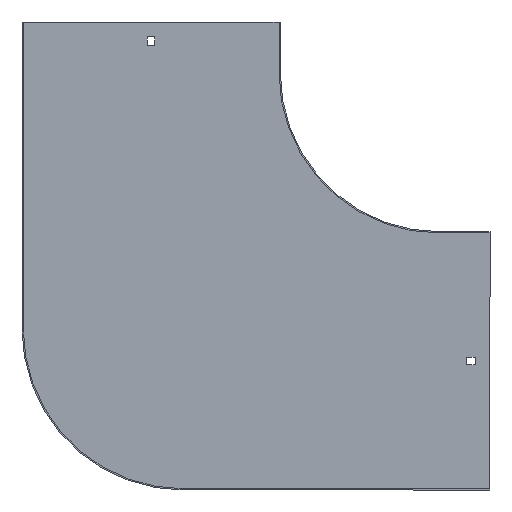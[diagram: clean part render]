
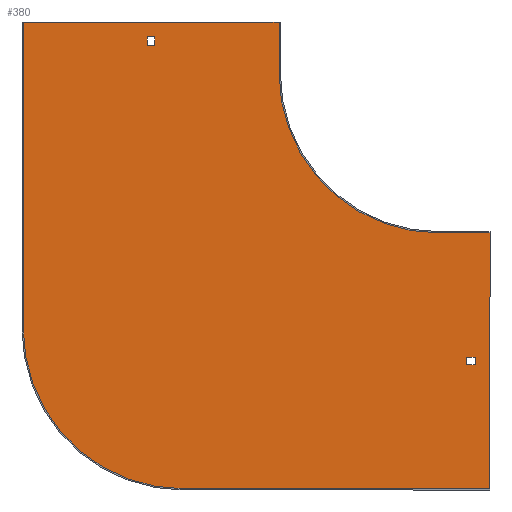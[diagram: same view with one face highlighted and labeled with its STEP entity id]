
A CAD part, front view. The second image highlights one B-rep face of the part: STEP entity #380.
In plain terms, the highlighted planar face has unit normal (0, -1, 0).
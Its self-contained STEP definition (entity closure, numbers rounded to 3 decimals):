
#1 = ORIENTED_EDGE ( 'NONE', *, *, #210, .F. ) ;
#2 = VECTOR ( 'NONE', #6, 1000. ) ;
#6 = DIRECTION ( 'NONE',  ( 0., 0., 1. ) ) ;
#17 = DIRECTION ( 'NONE',  ( 0., 0., -1. ) ) ;
#20 = CARTESIAN_POINT ( 'NONE',  ( 40., -1., -125. ) ) ;
#21 = CARTESIAN_POINT ( 'NONE',  ( 28.5, -1., -228. ) ) ;
#23 = LINE ( 'NONE', #491, #465 ) ;
#28 = LINE ( 'NONE', #237, #812 ) ;
#29 = VERTEX_POINT ( 'NONE', #565 ) ;
#33 = VERTEX_POINT ( 'NONE', #168 ) ;
#51 = ORIENTED_EDGE ( 'NONE', *, *, #435, .T. ) ;
#66 = CARTESIAN_POINT ( 'NONE',  ( -222., -1., 21.5 ) ) ;
#73 = ORIENTED_EDGE ( 'NONE', *, *, #659, .F. ) ;
#76 = CARTESIAN_POINT ( 'NONE',  ( 21.5, -1., -222. ) ) ;
#85 = EDGE_CURVE ( 'NONE', #679, #311, #780, .T. ) ;
#96 = VECTOR ( 'NONE', #17, 1000. ) ;
#97 = VECTOR ( 'NONE', #556, 1000. ) ;
#102 = EDGE_LOOP ( 'NONE', ( #194, #848, #434, #73, #392, #1, #570, #639 ) ) ;
#110 = VECTOR ( 'NONE', #827, 1000. ) ;
#113 = LINE ( 'NONE', #843, #768 ) ;
#130 = LINE ( 'NONE', #480, #825 ) ;
#132 = CARTESIAN_POINT ( 'NONE',  ( 28.5, -1., -222. ) ) ;
#135 = DIRECTION ( 'NONE',  ( -1., 0., 0. ) ) ;
#138 = EDGE_LOOP ( 'NONE', ( #470, #208, #51, #580 ) ) ;
#143 = DIRECTION ( 'NONE',  ( -1., 0., 0. ) ) ;
#153 = EDGE_LOOP ( 'NONE', ( #510, #524, #672, #616 ) ) ;
#155 = FACE_OUTER_BOUND ( 'NONE', #102, .T. ) ;
#158 = CARTESIAN_POINT ( 'NONE',  ( -228., -1., 21.5 ) ) ;
#166 = CARTESIAN_POINT ( 'NONE',  ( -125., -1., 40. ) ) ;
#168 = CARTESIAN_POINT ( 'NONE',  ( -200., -1., -325. ) ) ;
#188 = LINE ( 'NONE', #638, #627 ) ;
#190 = DIRECTION ( 'NONE',  ( 0., 0., -1. ) ) ;
#194 = ORIENTED_EDGE ( 'NONE', *, *, #498, .F. ) ;
#195 = AXIS2_PLACEMENT_3D ( 'NONE', #257, #793, #190 ) ;
#208 = ORIENTED_EDGE ( 'NONE', *, *, #218, .T. ) ;
#209 = EDGE_CURVE ( 'NONE', #33, #575, #234, .T. ) ;
#210 = EDGE_CURVE ( 'NONE', #311, #373, #130, .T. ) ;
#217 = LINE ( 'NONE', #486, #97 ) ;
#218 = EDGE_CURVE ( 'NONE', #29, #697, #340, .T. ) ;
#223 = CARTESIAN_POINT ( 'NONE',  ( 0., -1., -125. ) ) ;
#234 = CIRCLE ( 'NONE', #195, 125. ) ;
#235 = VECTOR ( 'NONE', #347, 1000. ) ;
#236 = CARTESIAN_POINT ( 'NONE',  ( -325., -1., 40. ) ) ;
#237 = CARTESIAN_POINT ( 'NONE',  ( -228., -1., 0. ) ) ;
#238 = VERTEX_POINT ( 'NONE', #76 ) ;
#255 = LINE ( 'NONE', #389, #397 ) ;
#257 = CARTESIAN_POINT ( 'NONE',  ( -200., -1., -200. ) ) ;
#258 = EDGE_CURVE ( 'NONE', #575, #611, #603, .T. ) ;
#265 = AXIS2_PLACEMENT_3D ( 'NONE', #852, #599, #796 ) ;
#285 = DIRECTION ( 'NONE',  ( 0., 0., 1. ) ) ;
#288 = DIRECTION ( 'NONE',  ( 0., 0., 1. ) ) ;
#292 = AXIS2_PLACEMENT_3D ( 'NONE', #689, #364, #833 ) ;
#309 = CARTESIAN_POINT ( 'NONE',  ( -325., -1., -200. ) ) ;
#311 = VERTEX_POINT ( 'NONE', #223 ) ;
#315 = VERTEX_POINT ( 'NONE', #699 ) ;
#325 = EDGE_CURVE ( 'NONE', #807, #684, #23, .T. ) ;
#333 = EDGE_CURVE ( 'NONE', #417, #531, #28, .T. ) ;
#334 = CARTESIAN_POINT ( 'NONE',  ( 40., -1., -325. ) ) ;
#340 = LINE ( 'NONE', #351, #96 ) ;
#343 = CARTESIAN_POINT ( 'NONE',  ( 0., -1., -222. ) ) ;
#344 = EDGE_CURVE ( 'NONE', #531, #29, #566, .T. ) ;
#347 = DIRECTION ( 'NONE',  ( 0., 0., -1. ) ) ;
#351 = CARTESIAN_POINT ( 'NONE',  ( -222., -1., 0. ) ) ;
#364 = DIRECTION ( 'NONE',  ( 0., -1., 0. ) ) ;
#373 = VERTEX_POINT ( 'NONE', #20 ) ;
#380 = ADVANCED_FACE ( 'NONE', ( #509, #155, #433 ), #772, .T. ) ;
#384 = VERTEX_POINT ( 'NONE', #166 ) ;
#385 = DIRECTION ( 'NONE',  ( 1., 0., 0. ) ) ;
#389 = CARTESIAN_POINT ( 'NONE',  ( 21.5, -1., 0. ) ) ;
#392 = ORIENTED_EDGE ( 'NONE', *, *, #710, .F. ) ;
#397 = VECTOR ( 'NONE', #444, 1000. ) ;
#416 = DIRECTION ( 'NONE',  ( 1., 0., 0. ) ) ;
#417 = VERTEX_POINT ( 'NONE', #158 ) ;
#433 = FACE_BOUND ( 'NONE', #138, .T. ) ;
#434 = ORIENTED_EDGE ( 'NONE', *, *, #209, .F. ) ;
#435 = EDGE_CURVE ( 'NONE', #697, #417, #188, .T. ) ;
#444 = DIRECTION ( 'NONE',  ( 0., 0., -1. ) ) ;
#465 = VECTOR ( 'NONE', #285, 1000. ) ;
#470 = ORIENTED_EDGE ( 'NONE', *, *, #344, .T. ) ;
#473 = LINE ( 'NONE', #529, #235 ) ;
#478 = LINE ( 'NONE', #343, #494 ) ;
#480 = CARTESIAN_POINT ( 'NONE',  ( 0., -1., -125. ) ) ;
#486 = CARTESIAN_POINT ( 'NONE',  ( 0., -1., -228. ) ) ;
#491 = CARTESIAN_POINT ( 'NONE',  ( 28.5, -1., 0. ) ) ;
#494 = VECTOR ( 'NONE', #135, 1000. ) ;
#498 = EDGE_CURVE ( 'NONE', #611, #384, #113, .T. ) ;
#509 = FACE_BOUND ( 'NONE', #153, .T. ) ;
#510 = ORIENTED_EDGE ( 'NONE', *, *, #624, .F. ) ;
#524 = ORIENTED_EDGE ( 'NONE', *, *, #325, .F. ) ;
#529 = CARTESIAN_POINT ( 'NONE',  ( -125., -1., 40. ) ) ;
#531 = VERTEX_POINT ( 'NONE', #717 ) ;
#534 = CARTESIAN_POINT ( 'NONE',  ( -125., -1., 0. ) ) ;
#536 = CARTESIAN_POINT ( 'NONE',  ( -325., -1., -200. ) ) ;
#556 = DIRECTION ( 'NONE',  ( 1., 0., 0. ) ) ;
#565 = CARTESIAN_POINT ( 'NONE',  ( -222., -1., 28.5 ) ) ;
#566 = LINE ( 'NONE', #755, #110 ) ;
#570 = ORIENTED_EDGE ( 'NONE', *, *, #85, .F. ) ;
#575 = VERTEX_POINT ( 'NONE', #309 ) ;
#577 = EDGE_CURVE ( 'NONE', #238, #315, #255, .T. ) ;
#580 = ORIENTED_EDGE ( 'NONE', *, *, #333, .T. ) ;
#599 = DIRECTION ( 'NONE',  ( 0., -1., 0. ) ) ;
#603 = LINE ( 'NONE', #536, #2 ) ;
#611 = VERTEX_POINT ( 'NONE', #236 ) ;
#616 = ORIENTED_EDGE ( 'NONE', *, *, #577, .F. ) ;
#624 = EDGE_CURVE ( 'NONE', #684, #238, #478, .T. ) ;
#627 = VECTOR ( 'NONE', #846, 1000. ) ;
#631 = EDGE_CURVE ( 'NONE', #384, #679, #473, .T. ) ;
#638 = CARTESIAN_POINT ( 'NONE',  ( 0., -1., 21.5 ) ) ;
#639 = ORIENTED_EDGE ( 'NONE', *, *, #631, .F. ) ;
#644 = VERTEX_POINT ( 'NONE', #862 ) ;
#659 = EDGE_CURVE ( 'NONE', #644, #33, #740, .T. ) ;
#672 = ORIENTED_EDGE ( 'NONE', *, *, #811, .F. ) ;
#679 = VERTEX_POINT ( 'NONE', #534 ) ;
#684 = VERTEX_POINT ( 'NONE', #132 ) ;
#689 = CARTESIAN_POINT ( 'NONE',  ( 0., -1., 0. ) ) ;
#697 = VERTEX_POINT ( 'NONE', #66 ) ;
#699 = CARTESIAN_POINT ( 'NONE',  ( 21.5, -1., -228. ) ) ;
#710 = EDGE_CURVE ( 'NONE', #373, #644, #813, .T. ) ;
#717 = CARTESIAN_POINT ( 'NONE',  ( -228., -1., 28.5 ) ) ;
#740 = LINE ( 'NONE', #334, #754 ) ;
#754 = VECTOR ( 'NONE', #143, 1000. ) ;
#755 = CARTESIAN_POINT ( 'NONE',  ( 0., -1., 28.5 ) ) ;
#768 = VECTOR ( 'NONE', #385, 1000. ) ;
#772 = PLANE ( 'NONE',  #292 ) ;
#780 = CIRCLE ( 'NONE', #265, 125. ) ;
#793 = DIRECTION ( 'NONE',  ( 0., 1., 0. ) ) ;
#794 = DIRECTION ( 'NONE',  ( 0., 0., -1. ) ) ;
#796 = DIRECTION ( 'NONE',  ( 0., 0., -1. ) ) ;
#807 = VERTEX_POINT ( 'NONE', #21 ) ;
#808 = CARTESIAN_POINT ( 'NONE',  ( 40., -1., -124. ) ) ;
#811 = EDGE_CURVE ( 'NONE', #315, #807, #217, .T. ) ;
#812 = VECTOR ( 'NONE', #288, 1000. ) ;
#813 = LINE ( 'NONE', #808, #826 ) ;
#825 = VECTOR ( 'NONE', #416, 1000. ) ;
#826 = VECTOR ( 'NONE', #794, 1000. ) ;
#827 = DIRECTION ( 'NONE',  ( 1., 0., 0. ) ) ;
#833 = DIRECTION ( 'NONE',  ( 0., 0., -1. ) ) ;
#843 = CARTESIAN_POINT ( 'NONE',  ( -326., -1., 40. ) ) ;
#846 = DIRECTION ( 'NONE',  ( -1., 0., 0. ) ) ;
#848 = ORIENTED_EDGE ( 'NONE', *, *, #258, .F. ) ;
#852 = CARTESIAN_POINT ( 'NONE',  ( 0., -1., 0. ) ) ;
#862 = CARTESIAN_POINT ( 'NONE',  ( 40., -1., -325. ) ) ;
